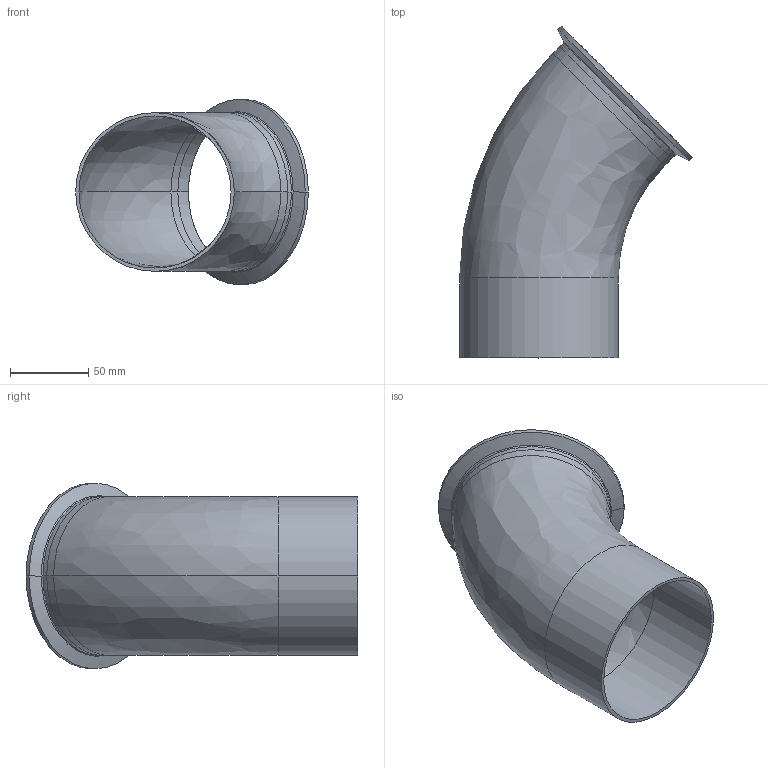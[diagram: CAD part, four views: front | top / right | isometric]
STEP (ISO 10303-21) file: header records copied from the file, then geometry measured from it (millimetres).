
FILE_DESCRIPTION (( 'STEP AP214' ), '1' );
FILE_NAME ('TE2KC6L4.0-...STEP', '2016-05-22T06:32:58', ( 'eran' ), ( '' ), 'SwSTEP 2.0', 'SolidWorks 2016', '' );
FILE_SCHEMA (( 'AUTOMOTIVE_DESIGN' ));
Length unit declared in the file: millimetre
Products named in the file (1): TE2KC6L4.0-..
Bounding box: 148.99 x 212.49 x 118.92 mm (x, y, z)
Volume: 136114.3 mm3; surface area: 125050.5 mm2
Topology: 2 solids, 2 shells, 39 faces, 92 edges, 58 vertices
Faces by surface type: bspline 14, cylinder 14, cone 6, plane 5
Entity records: 1885 total; most frequent: CARTESIAN_POINT 942, DIRECTION 204, ORIENTED_EDGE 184, EDGE_CURVE 92, AXIS2_PLACEMENT_3D 92, CIRCLE 66, VERTEX_POINT 58, EDGE_LOOP 44
